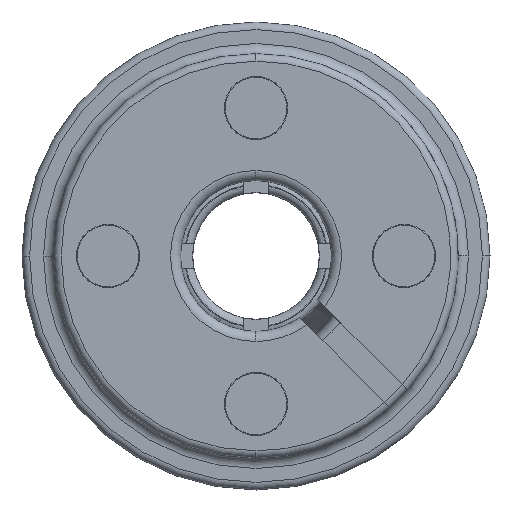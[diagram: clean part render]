
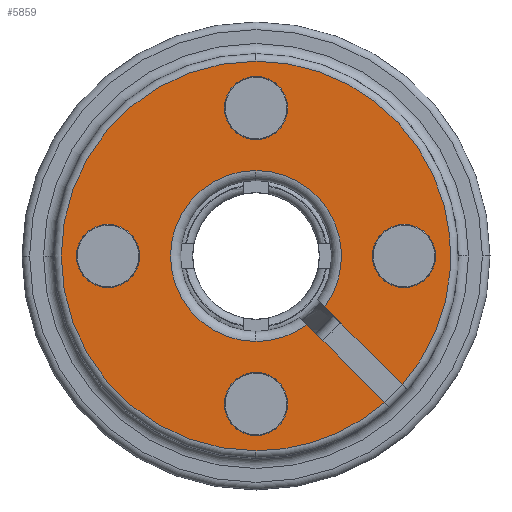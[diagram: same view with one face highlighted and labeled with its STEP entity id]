
A CAD part, left-side view. The second image highlights one B-rep face of the part: STEP entity #5859.
In plain terms, the highlighted planar face has unit normal (-1, 0, 0).
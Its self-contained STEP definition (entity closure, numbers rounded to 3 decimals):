
#62 = AXIS2_PLACEMENT_3D ( 'NONE', #3638, #3639, #3589 ) ;
#196 = AXIS2_PLACEMENT_3D ( 'NONE', #3742, #3720, #3886 ) ;
#222 = AXIS2_PLACEMENT_3D ( 'NONE', #3690, #3500, #3691 ) ;
#251 = AXIS2_PLACEMENT_3D ( 'NONE', #3753, #3770, #3715 ) ;
#294 = EDGE_CURVE ( 'NONE', #2700, #2951, #2834, .T. ) ;
#344 = EDGE_CURVE ( 'NONE', #4859, #4173, #2430, .T. ) ;
#365 = EDGE_CURVE ( 'NONE', #4528, #4872, #2374, .T. ) ;
#380 = EDGE_CURVE ( 'NONE', #2951, #2116, #2376, .T. ) ;
#427 = EDGE_CURVE ( 'NONE', #4872, #2915, #5571, .T. ) ;
#451 = EDGE_CURVE ( 'NONE', #4700, #4806, #5345, .T. ) ;
#486 = EDGE_CURVE ( 'NONE', #4173, #4859, #5770, .T. ) ;
#552 = EDGE_CURVE ( 'NONE', #4172, #4858, #5268, .T. ) ;
#565 = EDGE_CURVE ( 'NONE', #4806, #4700, #5193, .T. ) ;
#571 = EDGE_CURVE ( 'NONE', #2116, #3003, #5103, .T. ) ;
#603 = EDGE_CURVE ( 'NONE', #4174, #4528, #5362, .T. ) ;
#632 = EDGE_CURVE ( 'NONE', #3003, #2915, #5662, .T. ) ;
#637 = EDGE_CURVE ( 'NONE', #4856, #4438, #5670, .T. ) ;
#651 = EDGE_CURVE ( 'NONE', #4438, #4856, #5489, .T. ) ;
#660 = EDGE_CURVE ( 'NONE', #4174, #2700, #5229, .T. ) ;
#717 = EDGE_CURVE ( 'NONE', #4858, #4172, #5036, .T. ) ;
#821 = DIRECTION ( 'NONE',  ( 0., 0., -1. ) ) ;
#824 = PLANE ( 'NONE',  #1400 ) ;
#826 = CARTESIAN_POINT ( 'NONE',  ( -4.425, 3.262, 0. ) ) ;
#827 = DIRECTION ( 'NONE',  ( 1., 0., 0. ) ) ;
#922 = CARTESIAN_POINT ( 'NONE',  ( -4.425, -0.118, -3.38 ) ) ;
#928 = CARTESIAN_POINT ( 'NONE',  ( -4.425, -5.968, 1.25 ) ) ;
#935 = CARTESIAN_POINT ( 'NONE',  ( -4.425, 1.132, 5.85 ) ) ;
#938 = CARTESIAN_POINT ( 'NONE',  ( -4.425, 1.132, -5.85 ) ) ;
#945 = CARTESIAN_POINT ( 'NONE',  ( -4.425, 5.732, 1.25 ) ) ;
#950 = CARTESIAN_POINT ( 'NONE',  ( -4.425, 5.732, -1.25 ) ) ;
#956 = CARTESIAN_POINT ( 'NONE',  ( -4.425, -0.118, 3.38 ) ) ;
#960 = CARTESIAN_POINT ( 'NONE',  ( -4.425, -1.368, 5.85 ) ) ;
#977 = CARTESIAN_POINT ( 'NONE',  ( -4.425, -2.835, -2.01 ) ) ;
#978 = CARTESIAN_POINT ( 'NONE',  ( -4.425, -1.368, -5.85 ) ) ;
#980 = CARTESIAN_POINT ( 'NONE',  ( -4.425, -5.968, -1.25 ) ) ;
#1045 = CARTESIAN_POINT ( 'NONE',  ( -4.425, -5.197, -5.787 ) ) ;
#1076 = CARTESIAN_POINT ( 'NONE',  ( -4.425, -0.118, 7.7 ) ) ;
#1122 = CARTESIAN_POINT ( 'NONE',  ( -4.425, -2.128, -2.717 ) ) ;
#1222 = CARTESIAN_POINT ( 'NONE',  ( -4.425, -5.904, -5.08 ) ) ;
#1275 = CARTESIAN_POINT ( 'NONE',  ( -4.425, -0.118, -7.7 ) ) ;
#1400 = AXIS2_PLACEMENT_3D ( 'NONE', #826, #827, #821 ) ;
#1508 = DIRECTION ( 'NONE',  ( 0., -1., 0. ) ) ;
#1509 = DIRECTION ( 'NONE',  ( 1., 0., 0. ) ) ;
#1510 = CARTESIAN_POINT ( 'NONE',  ( -4.425, -0.118, -5.85 ) ) ;
#1717 = DIRECTION ( 'NONE',  ( 0., -0.707, -0.707 ) ) ;
#1718 = CARTESIAN_POINT ( 'NONE',  ( -4.425, 1.219, 2.044 ) ) ;
#1751 = DIRECTION ( 'NONE',  ( 0., 1., 0. ) ) ;
#1752 = DIRECTION ( 'NONE',  ( 1., 0., 0. ) ) ;
#1753 = CARTESIAN_POINT ( 'NONE',  ( -4.425, -0.118, 5.85 ) ) ;
#1797 = DIRECTION ( 'NONE',  ( 0., 1., 0. ) ) ;
#1798 = DIRECTION ( 'NONE',  ( 1., 0., 0. ) ) ;
#1799 = CARTESIAN_POINT ( 'NONE',  ( -4.425, -0.118, 5.85 ) ) ;
#1811 = DIRECTION ( 'NONE',  ( 0., 0.707, 0.707 ) ) ;
#1812 = CARTESIAN_POINT ( 'NONE',  ( -4.425, 1.926, 1.336 ) ) ;
#1900 = DIRECTION ( 'NONE',  ( 0., 0., 1. ) ) ;
#1901 = DIRECTION ( 'NONE',  ( -1., 0., 0. ) ) ;
#1903 = CARTESIAN_POINT ( 'NONE',  ( -4.425, -0.118, 0. ) ) ;
#1961 = ORIENTED_EDGE ( 'NONE', *, *, #486, .T. ) ;
#1981 = EDGE_LOOP ( 'NONE', ( #2870, #1961 ) ) ;
#1990 = ORIENTED_EDGE ( 'NONE', *, *, #427, .F. ) ;
#1992 = ORIENTED_EDGE ( 'NONE', *, *, #451, .T. ) ;
#2020 = ORIENTED_EDGE ( 'NONE', *, *, #660, .T. ) ;
#2030 = ORIENTED_EDGE ( 'NONE', *, *, #565, .T. ) ;
#2032 = ORIENTED_EDGE ( 'NONE', *, *, #365, .F. ) ;
#2066 = EDGE_LOOP ( 'NONE', ( #2736, #2583 ) ) ;
#2116 = VERTEX_POINT ( 'NONE', #1275 ) ;
#2128 = ORIENTED_EDGE ( 'NONE', *, *, #380, .T. ) ;
#2156 = EDGE_LOOP ( 'NONE', ( #2161, #2332 ) ) ;
#2161 = ORIENTED_EDGE ( 'NONE', *, *, #637, .T. ) ;
#2179 = EDGE_LOOP ( 'NONE', ( #2722, #2020, #2725, #2128, #2744, #2245, #1990, #2032 ) ) ;
#2245 = ORIENTED_EDGE ( 'NONE', *, *, #632, .T. ) ;
#2332 = ORIENTED_EDGE ( 'NONE', *, *, #651, .T. ) ;
#2374 = CIRCLE ( 'NONE', #196, 3.38 ) ;
#2376 = CIRCLE ( 'NONE', #222, 7.7 ) ;
#2430 = CIRCLE ( 'NONE', #251, 1.25 ) ;
#2538 = EDGE_LOOP ( 'NONE', ( #1992, #2030 ) ) ;
#2583 = ORIENTED_EDGE ( 'NONE', *, *, #717, .T. ) ;
#2700 = VERTEX_POINT ( 'NONE', #1222 ) ;
#2722 = ORIENTED_EDGE ( 'NONE', *, *, #603, .F. ) ;
#2725 = ORIENTED_EDGE ( 'NONE', *, *, #294, .T. ) ;
#2736 = ORIENTED_EDGE ( 'NONE', *, *, #552, .T. ) ;
#2744 = ORIENTED_EDGE ( 'NONE', *, *, #571, .T. ) ;
#2834 = CIRCLE ( 'NONE', #62, 7.7 ) ;
#2870 = ORIENTED_EDGE ( 'NONE', *, *, #344, .T. ) ;
#2915 = VERTEX_POINT ( 'NONE', #1122 ) ;
#2951 = VERTEX_POINT ( 'NONE', #1076 ) ;
#3003 = VERTEX_POINT ( 'NONE', #1045 ) ;
#3196 = DIRECTION ( 'NONE',  ( 0., 0., 1. ) ) ;
#3197 = DIRECTION ( 'NONE',  ( 1., 0., 0. ) ) ;
#3198 = CARTESIAN_POINT ( 'NONE',  ( -4.425, -5.968, 0. ) ) ;
#3310 = DIRECTION ( 'NONE',  ( 0., 0., -1. ) ) ;
#3312 = DIRECTION ( 'NONE',  ( 1., 0., 0. ) ) ;
#3313 = CARTESIAN_POINT ( 'NONE',  ( -4.425, 5.732, 0. ) ) ;
#3401 = DIRECTION ( 'NONE',  ( 0., 0., 1. ) ) ;
#3402 = DIRECTION ( 'NONE',  ( -1., 0., 0. ) ) ;
#3403 = CARTESIAN_POINT ( 'NONE',  ( -4.425, -0.118, 0. ) ) ;
#3500 = DIRECTION ( 'NONE',  ( -1., 0., 0. ) ) ;
#3589 = DIRECTION ( 'NONE',  ( 0., 0., 1. ) ) ;
#3638 = CARTESIAN_POINT ( 'NONE',  ( -4.425, -0.118, 0. ) ) ;
#3639 = DIRECTION ( 'NONE',  ( -1., 0., 0. ) ) ;
#3662 = DIRECTION ( 'NONE',  ( 0., 0., 1. ) ) ;
#3690 = CARTESIAN_POINT ( 'NONE',  ( -4.425, -0.118, 0. ) ) ;
#3691 = DIRECTION ( 'NONE',  ( 0., 0., 1. ) ) ;
#3705 = DIRECTION ( 'NONE',  ( 0., 0., -1. ) ) ;
#3715 = DIRECTION ( 'NONE',  ( 0., 0., 1. ) ) ;
#3720 = DIRECTION ( 'NONE',  ( -1., 0., 0. ) ) ;
#3742 = CARTESIAN_POINT ( 'NONE',  ( -4.425, -0.118, 0. ) ) ;
#3753 = CARTESIAN_POINT ( 'NONE',  ( -4.425, -5.968, 0. ) ) ;
#3757 = CARTESIAN_POINT ( 'NONE',  ( -4.425, -0.118, -5.85 ) ) ;
#3758 = DIRECTION ( 'NONE',  ( 1., 0., 0. ) ) ;
#3759 = DIRECTION ( 'NONE',  ( 0., -1., 0. ) ) ;
#3770 = DIRECTION ( 'NONE',  ( 1., 0., 0. ) ) ;
#3826 = CARTESIAN_POINT ( 'NONE',  ( -4.425, 5.732, 0. ) ) ;
#3827 = DIRECTION ( 'NONE',  ( 1., 0., 0. ) ) ;
#3886 = DIRECTION ( 'NONE',  ( 0., 0., 1. ) ) ;
#3906 = CARTESIAN_POINT ( 'NONE',  ( -4.425, -0.118, 0. ) ) ;
#3907 = DIRECTION ( 'NONE',  ( -1., 0., 0. ) ) ;
#3996 = AXIS2_PLACEMENT_3D ( 'NONE', #3906, #3907, #3662 ) ;
#4034 = AXIS2_PLACEMENT_3D ( 'NONE', #3313, #3312, #3310 ) ;
#4049 = AXIS2_PLACEMENT_3D ( 'NONE', #1903, #1901, #1900 ) ;
#4066 = AXIS2_PLACEMENT_3D ( 'NONE', #1799, #1798, #1797 ) ;
#4096 = AXIS2_PLACEMENT_3D ( 'NONE', #3757, #3758, #3759 ) ;
#4098 = AXIS2_PLACEMENT_3D ( 'NONE', #3826, #3827, #3705 ) ;
#4103 = AXIS2_PLACEMENT_3D ( 'NONE', #3198, #3197, #3196 ) ;
#4104 = AXIS2_PLACEMENT_3D ( 'NONE', #3403, #3402, #3401 ) ;
#4110 = AXIS2_PLACEMENT_3D ( 'NONE', #1510, #1509, #1508 ) ;
#4130 = AXIS2_PLACEMENT_3D ( 'NONE', #1753, #1752, #1751 ) ;
#4172 = VERTEX_POINT ( 'NONE', #978 ) ;
#4173 = VERTEX_POINT ( 'NONE', #980 ) ;
#4174 = VERTEX_POINT ( 'NONE', #977 ) ;
#4438 = VERTEX_POINT ( 'NONE', #960 ) ;
#4528 = VERTEX_POINT ( 'NONE', #956 ) ;
#4700 = VERTEX_POINT ( 'NONE', #950 ) ;
#4806 = VERTEX_POINT ( 'NONE', #945 ) ;
#4856 = VERTEX_POINT ( 'NONE', #935 ) ;
#4858 = VERTEX_POINT ( 'NONE', #938 ) ;
#4859 = VERTEX_POINT ( 'NONE', #928 ) ;
#4872 = VERTEX_POINT ( 'NONE', #922 ) ;
#5036 = CIRCLE ( 'NONE', #4110, 1.25 ) ;
#5103 = CIRCLE ( 'NONE', #3996, 7.7 ) ;
#5115 = FACE_OUTER_BOUND ( 'NONE', #2179, .T. ) ;
#5178 = FACE_BOUND ( 'NONE', #2156, .T. ) ;
#5193 = CIRCLE ( 'NONE', #4098, 1.25 ) ;
#5222 = VECTOR ( 'NONE', #1811, 1000. ) ;
#5229 = LINE ( 'NONE', #1718, #5474 ) ;
#5268 = CIRCLE ( 'NONE', #4096, 1.25 ) ;
#5345 = CIRCLE ( 'NONE', #4034, 1.25 ) ;
#5360 = FACE_BOUND ( 'NONE', #2066, .T. ) ;
#5362 = CIRCLE ( 'NONE', #4049, 3.38 ) ;
#5377 = FACE_BOUND ( 'NONE', #1981, .T. ) ;
#5423 = FACE_BOUND ( 'NONE', #2538, .T. ) ;
#5474 = VECTOR ( 'NONE', #1717, 1000. ) ;
#5489 = CIRCLE ( 'NONE', #4130, 1.25 ) ;
#5571 = CIRCLE ( 'NONE', #4104, 3.38 ) ;
#5662 = LINE ( 'NONE', #1812, #5222 ) ;
#5670 = CIRCLE ( 'NONE', #4066, 1.25 ) ;
#5770 = CIRCLE ( 'NONE', #4103, 1.25 ) ;
#5859 = ADVANCED_FACE ( 'NONE', ( #5178, #5377, #5360, #5423, #5115 ), #824, .F. ) ;
